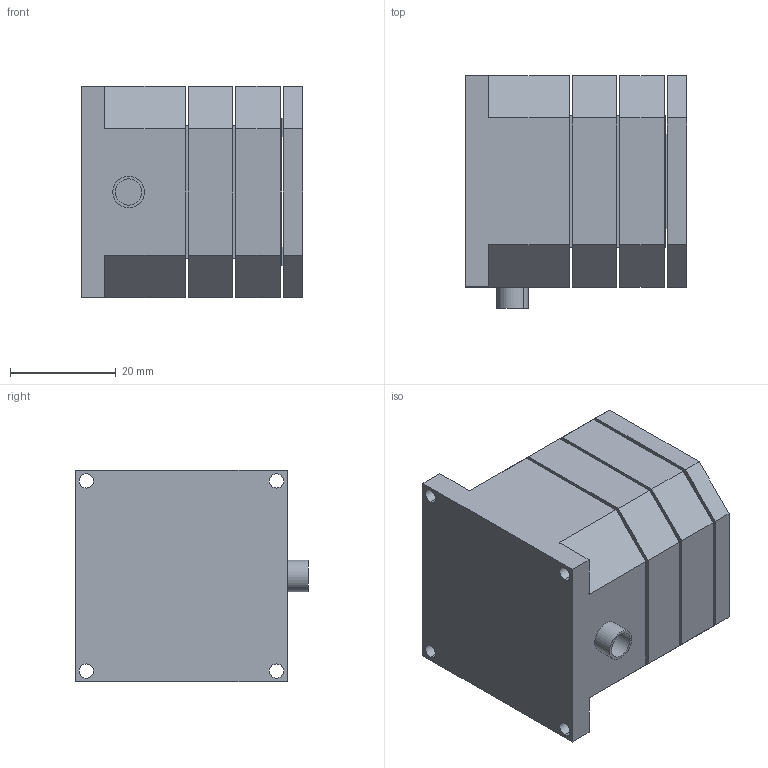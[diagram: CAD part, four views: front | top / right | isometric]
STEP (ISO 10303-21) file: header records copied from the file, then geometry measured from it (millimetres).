
FILE_DESCRIPTION (( 'STEP AP203' ), '1' );
FILE_NAME ('P63.XY18Z8ÍâÐÎ³ß´ç-23.06.05.STEP', '2023-06-05T02:48:03', ( '' ), ( '' ), 'SwSTEP 2.0', 'SolidWorks 2016', '' );
FILE_SCHEMA (( 'CONFIG_CONTROL_DESIGN' ));
Length unit declared in the file: millimetre
Products named in the file (4): M6-0.5誘杶; P63婥昜啣(P63-05R1); P63-D1台体（市场用）-20.07.09; P63.XY18Z8俋倛喜渡-23.06.05
Assembly tree (3 placements, depth 2):
  P63.XY18Z8俋倛喜渡-23.06.05
    P63-D1台体（市场用）-20.07.09
    P63婥昜啣(P63-05R1)
    M6-0.5誘杶
Bounding box: 42 x 44 x 40 mm (x, y, z)
Volume: 60344.7 mm3; surface area: 16253.1 mm2
Topology: 3 solids, 3 shells, 134 faces, 318 edges, 212 vertices
Faces by surface type: plane 84, cylinder 50
Entity records: 4332 total; most frequent: DIRECTION 698, CARTESIAN_POINT 670, ORIENTED_EDGE 636, EDGE_CURVE 318, AXIS2_PLACEMENT_3D 240, VECTOR 218, LINE 218, VERTEX_POINT 212
